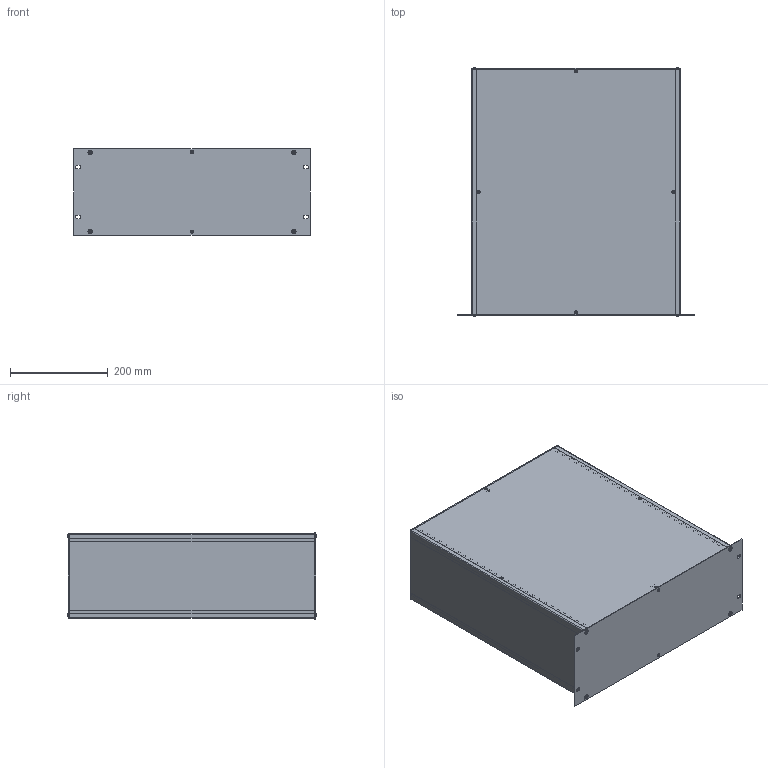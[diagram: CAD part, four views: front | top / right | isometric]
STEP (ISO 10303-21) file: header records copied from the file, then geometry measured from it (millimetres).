
FILE_DESCRIPTION(/* description */ (''),/* implementation_level */ '2;1');
FILE_NAME(/* name */ '//diskstation/Kunden/Gehäuse/Gehäuse/4HE/step/Zoll 4HE Rack Gehäuse Tiefe-500.step',/* time_stamp */ '2022-02-17T15:48:22+01:00',/* author */ (''),/* organization */ (''),/* preprocessor_version */ 'ST-DEVELOPER v18.1',/* originating_system */ 'Autodesk Translation Framework v10.10.0.1391',/* authorisation */ '');
FILE_SCHEMA (('AUTOMOTIVE_DESIGN { 1 0 10303 214 3 1 1 }'));
Length unit declared in the file: millimetre
Products named in the file (28): 4HE Gehäuse mit parametern; Gehäuse; Gehäuseprofil 1 unten links; Gehäuseprofil 2 oben rechts; Gehäuseprofil 1 unten rechts; Gehäuseprofil 2 oben links; Rückplatte; Deckel; Seitenteil links; Seitenteil rechts; Bodenplatte; Montageklotz Front/Deckel; Montageklotz Front/Boden; Montageklotz Rück/Deckel; Montageklotz Rück/Boden; Gewindestreifen; Frontplatte; Schrauben M5; Schraube Front; Schraube Front (1); Schraube Front (2); Schraube Front (3); Schraube Rück (1); Schraube Rück; Schraube Rück (2); Schraube Rück (3); Schrauben M3; HI_Senkschraube DIN 965 A v2 M3x5 24677.030.005(High)
Assembly tree (37 placements, depth 3):
  4HE Gehäuse mit parametern
    Gehäuse
      Gehäuseprofil 1 unten links
      Gehäuseprofil 2 oben rechts
      Gehäuseprofil 1 unten rechts
      Gehäuseprofil 2 oben links
      Rückplatte
      Deckel
      Seitenteil links
      Seitenteil rechts
      Bodenplatte
      Montageklotz Front/Deckel
      Montageklotz Front/Boden
      Montageklotz Rück/Deckel
      Montageklotz Rück/Boden
      Gewindestreifen  x2
    Frontplatte
    Schrauben M5
      Schraube Front
      Schraube Front (1)
      Schraube Front (2)
      Schraube Front (3)
      Schraube Rück (1)
      Schraube Rück
      Schraube Rück (2)
      Schraube Rück (3)
    Schrauben M3
      HI_Senkschraube DIN 965 A v2 M3x5 24677.030.005(High)  x10
Bounding box: 483 x 508.2 x 177 mm (x, y, z)
Volume: 1891796.5 mm3; surface area: 1658853.4 mm2
Topology: 34 solids, 34 shells, 944 faces, 2346 edges, 1470 vertices
Faces by surface type: cylinder 422, plane 342, cone 164, torus 8, bspline 8
Full cylindrical faces by diameter (mm): 2.529 x180, 3 x10, 3.2 x10, 4.234 x40, 5 x8, 5.2 x4, 5.3 x8, 5.6 x10, 9.5 x8
Entity records: 18600 total; most frequent: CARTESIAN_POINT 3348, DIRECTION 3135, ORIENTED_EDGE 2760, EDGE_CURVE 1380, AXIS2_PLACEMENT_3D 1195, VERTEX_POINT 868, EDGE_LOOP 866, LINE 745
